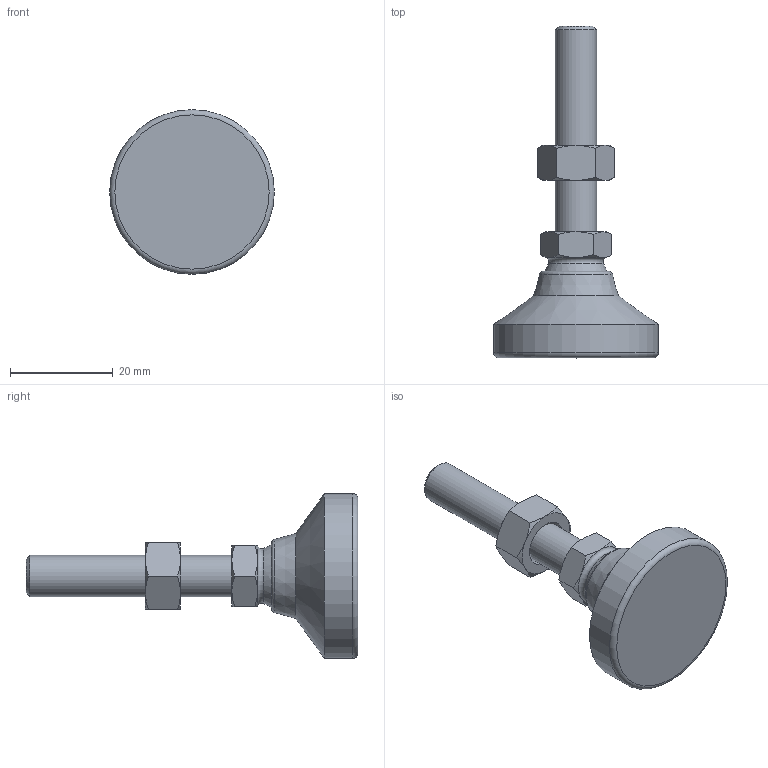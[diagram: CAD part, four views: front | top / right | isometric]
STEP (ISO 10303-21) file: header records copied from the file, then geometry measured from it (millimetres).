
FILE_DESCRIPTION( ( 'STEP AP214' ), ' ' );
FILE_NAME( 'O:/ganter_2015/teil_2/2_5/gn343_2/gn343_2_kre/Levelling foot with threaded stud GN 343.2-32-M8-40-KRE-(0).stp', '2015-10-26T09:18:18', ( '' ), ( '' ), ' ', 'PARTsolutions', ' ' );
FILE_SCHEMA( ( 'AUTOMOTIVE_DESIGN { 1 0 10303 214 1 1 1 1 }' ) );
Length unit declared in the file: millimetre
Products named in the file (4): Levelling foot with threaded stud GN 343.2-32-M8-40-KRE-(0); _Levelling foot with threaded stud GN 343.2-32-M8-40-KRE-(0)_foot; _Levelling foot with threaded stud GN 343.2-32-M8-40-KRE-(0)_screw; _Levelling foot with threaded stud GN 343.2-32-M8-40-KRE-(0)_nut
Assembly tree (3 placements, depth 2):
  Levelling foot with threaded stud GN 343.2-32-M8-40-KRE-(0)
    _Levelling foot with threaded stud GN 343.2-32-M8-40-KRE-(0)_foot
    _Levelling foot with threaded stud GN 343.2-32-M8-40-KRE-(0)_screw
    _Levelling foot with threaded stud GN 343.2-32-M8-40-KRE-(0)_nut
Bounding box: 32 x 64.5 x 32 mm (x, y, z)
Volume: 12356.6 mm3; surface area: 5112.5 mm2
Topology: 3 solids, 3 shells, 50 faces, 107 edges, 63 vertices
Faces by surface type: cone 24, plane 18, torus 3, cylinder 3, sphere 2
Full cylindrical faces by diameter (mm): 6.647 x1, 8 x1, 32 x1
Entity records: 1858 total; most frequent: CARTESIAN_POINT 452, DIRECTION 188, ORIENTED_EDGE 176, AXIS2_PLACEMENT_3D 88, EDGE_CURVE 88, EDGE_LOOP 66, VERTEX_POINT 60, FACE_OUTER_BOUND 56
